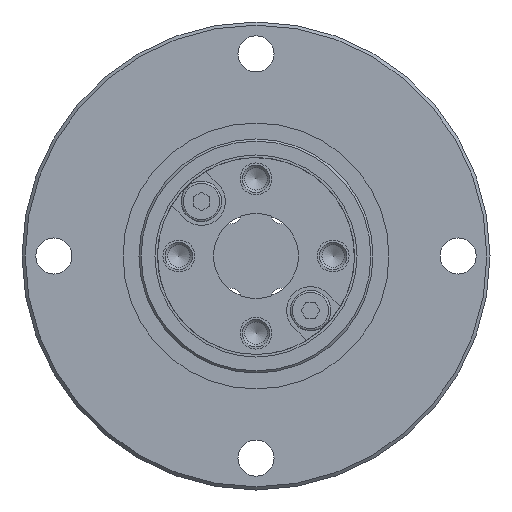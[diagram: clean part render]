
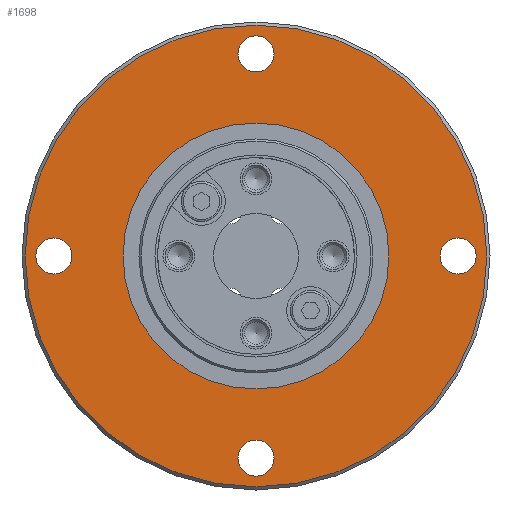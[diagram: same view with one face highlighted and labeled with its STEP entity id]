
A CAD part, left-side view. The second image highlights one B-rep face of the part: STEP entity #1698.
In plain terms, the highlighted planar face has unit normal (-1, 0, 0).
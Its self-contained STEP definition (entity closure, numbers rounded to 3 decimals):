
#88=PLANE('',#1938);
#190=CIRCLE('',#1939,21.7);
#191=CIRCLE('',#1940,1.7);
#192=CIRCLE('',#1941,1.7);
#193=CIRCLE('',#1942,1.7);
#194=CIRCLE('',#1943,1.7);
#195=CIRCLE('',#1944,12.5);
#405=ORIENTED_EDGE('',*,*,#721,.F.);
#406=ORIENTED_EDGE('',*,*,#722,.T.);
#407=ORIENTED_EDGE('',*,*,#723,.T.);
#408=ORIENTED_EDGE('',*,*,#724,.T.);
#409=ORIENTED_EDGE('',*,*,#725,.T.);
#410=ORIENTED_EDGE('',*,*,#726,.T.);
#721=EDGE_CURVE('',#902,#902,#190,.T.);
#722=EDGE_CURVE('',#903,#903,#191,.T.);
#723=EDGE_CURVE('',#904,#904,#192,.T.);
#724=EDGE_CURVE('',#905,#905,#193,.T.);
#725=EDGE_CURVE('',#906,#906,#194,.T.);
#726=EDGE_CURVE('',#907,#907,#195,.T.);
#902=VERTEX_POINT('',#2927);
#903=VERTEX_POINT('',#2929);
#904=VERTEX_POINT('',#2931);
#905=VERTEX_POINT('',#2933);
#906=VERTEX_POINT('',#2935);
#907=VERTEX_POINT('',#2937);
#1202=EDGE_LOOP('',(#405));
#1203=EDGE_LOOP('',(#406));
#1204=EDGE_LOOP('',(#407));
#1205=EDGE_LOOP('',(#408));
#1206=EDGE_LOOP('',(#409));
#1207=EDGE_LOOP('',(#410));
#1448=FACE_BOUND('',#1202,.T.);
#1449=FACE_BOUND('',#1203,.T.);
#1450=FACE_BOUND('',#1204,.T.);
#1451=FACE_BOUND('',#1205,.T.);
#1452=FACE_BOUND('',#1206,.T.);
#1453=FACE_BOUND('',#1207,.T.);
#1698=ADVANCED_FACE('',(#1448,#1449,#1450,#1451,#1452,#1453),#88,.F.);
#1938=AXIS2_PLACEMENT_3D('',#2925,#2347,#2348);
#1939=AXIS2_PLACEMENT_3D('',#2926,#2349,#2350);
#1940=AXIS2_PLACEMENT_3D('',#2928,#2351,#2352);
#1941=AXIS2_PLACEMENT_3D('',#2930,#2353,#2354);
#1942=AXIS2_PLACEMENT_3D('',#2932,#2355,#2356);
#1943=AXIS2_PLACEMENT_3D('',#2934,#2357,#2358);
#1944=AXIS2_PLACEMENT_3D('',#2936,#2359,#2360);
#2347=DIRECTION('',(1.,0.,0.));
#2348=DIRECTION('',(0.,0.,-1.));
#2349=DIRECTION('',(1.,0.,0.));
#2350=DIRECTION('',(0.,0.,-1.));
#2351=DIRECTION('',(1.,0.,0.));
#2352=DIRECTION('',(0.,0.,-1.));
#2353=DIRECTION('',(1.,0.,0.));
#2354=DIRECTION('',(0.,0.,-1.));
#2355=DIRECTION('',(1.,0.,0.));
#2356=DIRECTION('',(0.,0.,-1.));
#2357=DIRECTION('',(1.,0.,0.));
#2358=DIRECTION('',(0.,0.,-1.));
#2359=DIRECTION('',(1.,0.,0.));
#2360=DIRECTION('',(0.,0.,-1.));
#2925=CARTESIAN_POINT('',(7.,10.65,0.));
#2926=CARTESIAN_POINT('',(7.,0.,0.));
#2927=CARTESIAN_POINT('',(7.,0.,-21.7));
#2928=CARTESIAN_POINT('',(7.,19.,0.));
#2929=CARTESIAN_POINT('',(7.,19.,-1.7));
#2930=CARTESIAN_POINT('',(7.,0.,19.));
#2931=CARTESIAN_POINT('',(7.,0.,17.3));
#2932=CARTESIAN_POINT('',(7.,-19.,0.));
#2933=CARTESIAN_POINT('',(7.,-19.,-1.7));
#2934=CARTESIAN_POINT('',(7.,0.,-19.));
#2935=CARTESIAN_POINT('',(7.,0.,-20.7));
#2936=CARTESIAN_POINT('',(7.,0.,0.));
#2937=CARTESIAN_POINT('',(7.,0.,-12.5));
